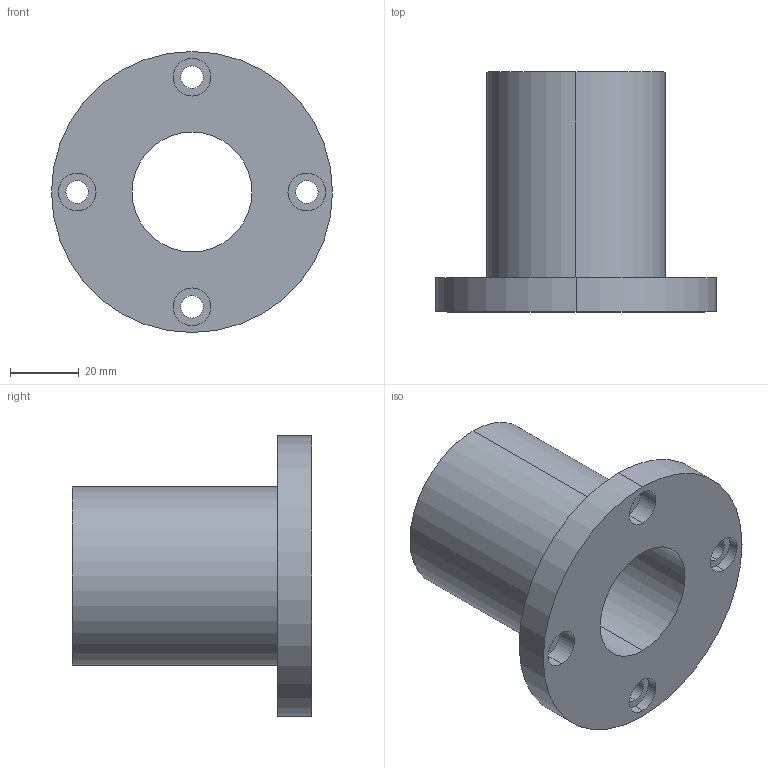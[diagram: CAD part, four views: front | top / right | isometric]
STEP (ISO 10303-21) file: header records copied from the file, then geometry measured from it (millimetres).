
FILE_DESCRIPTION (( 'STEP AP214' ), '1' );
FILE_NAME ('2.7039 Lineaarilaakeri LMF35UU.STEP', '2024-06-19T10:36:49', ( '' ), ( '' ), 'SwSTEP 2.0', 'SolidWorks 2024', '' );
FILE_SCHEMA (( 'AUTOMOTIVE_DESIGN' ));
Length unit declared in the file: millimetre
Products named in the file (1): 2.7039 Lineaarilaakeri LMF35UU
Bounding box: 82 x 70 x 82 mm (x, y, z)
Volume: 110397.7 mm3; surface area: 29522.6 mm2
Topology: 1 solids, 1 shells, 29 faces, 66 edges, 44 vertices
Faces by surface type: cylinder 22, plane 7
Entity records: 887 total; most frequent: DIRECTION 170, CARTESIAN_POINT 140, ORIENTED_EDGE 132, AXIS2_PLACEMENT_3D 74, EDGE_CURVE 66, EDGE_LOOP 44, VERTEX_POINT 44, CIRCLE 44
